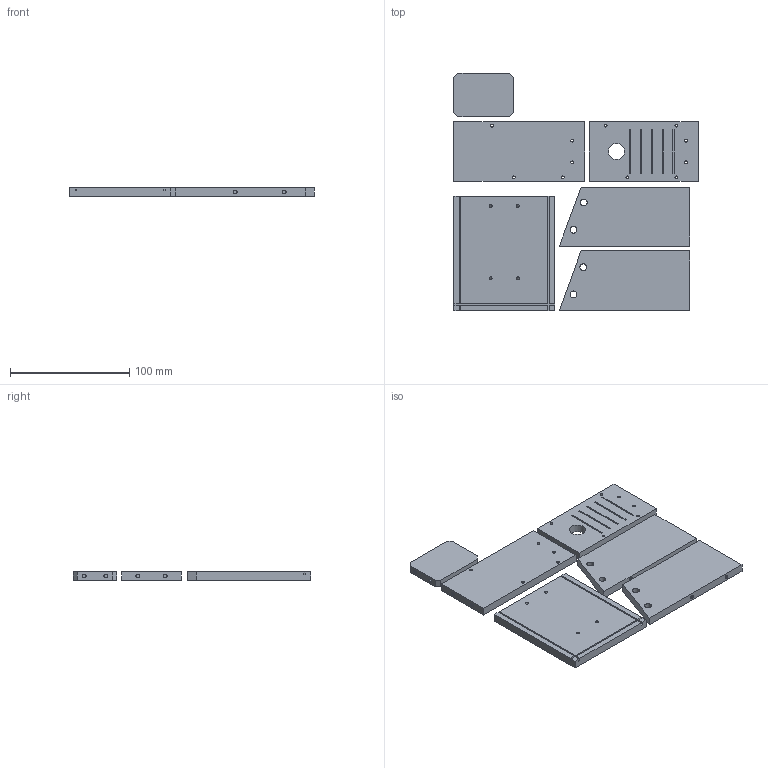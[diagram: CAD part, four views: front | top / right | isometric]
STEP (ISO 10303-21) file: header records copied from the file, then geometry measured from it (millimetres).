
FILE_DESCRIPTION(('Open CASCADE Model'),'2;1');
FILE_NAME('Open CASCADE Shape Model','2026-07-25T09:12:26',('Author'),( 'Open CASCADE'),'Open CASCADE STEP processor 7.9','Open CASCADE 7.9' ,'Unknown');
FILE_SCHEMA(('AUTOMOTIVE_DESIGN { 1 0 10303 214 1 1 1 1 }'));
Length unit declared in the file: millimetre
Products named in the file (7): Open CASCADE STEP translator 7.9 1; Open CASCADE STEP translator 7.9 1.1; Open CASCADE STEP translator 7.9 1.2; Open CASCADE STEP translator 7.9 1.3; Open CASCADE STEP translator 7.9 1.4; Open CASCADE STEP translator 7.9 1.5; Open CASCADE STEP translator 7.9 1.6
Assembly tree (6 placements, depth 2):
  Open CASCADE STEP translator 7.9 1
    Open CASCADE STEP translator 7.9 1.1
    Open CASCADE STEP translator 7.9 1.2
    Open CASCADE STEP translator 7.9 1.3
    Open CASCADE STEP translator 7.9 1.4
    Open CASCADE STEP translator 7.9 1.5
    Open CASCADE STEP translator 7.9 1.6
Bounding box: 205.17 x 199.45 x 6.86 mm (x, y, z)
Volume: 202560.2 mm3; surface area: 75188.4 mm2
Topology: 6 solids, 6 shells, 158 faces, 347 edges, 221 vertices
Faces by surface type: plane 108, cylinder 35, cone 15
Full cylindrical faces by diameter (mm): 2.4 x15, 2.8 x15, 5.715 x4, 13.716 x1
Entity records: 9159 total; most frequent: CARTESIAN_POINT 1627, DIRECTION 1444, LINE 878, VECTOR 878, ORIENTED_EDGE 694, PCURVE 694, DEFINITIONAL_REPRESENTATION 694, EDGE_CURVE 347
